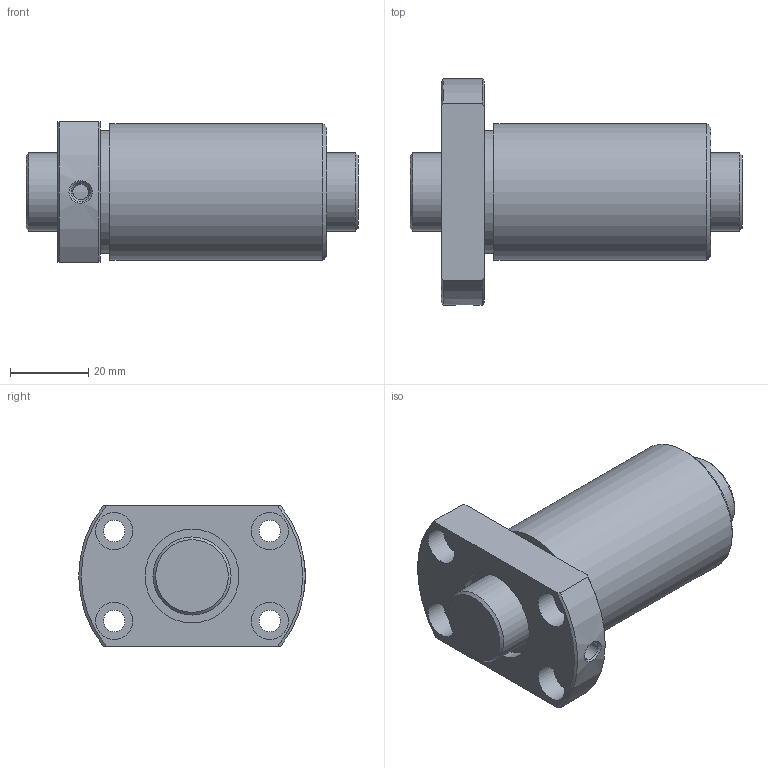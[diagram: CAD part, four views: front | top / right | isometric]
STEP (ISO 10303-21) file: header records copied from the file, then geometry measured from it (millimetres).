
FILE_DESCRIPTION(/* description */ ('STEP AP203'),/* implementation_level */ '2;1');
FILE_NAME(/* name */ 'DIK2008-4RRG0+85LC0_000',/* time_stamp */ '2025-01-07T08:42:14+01:00',/* author */ ('License CC BY-ND 4.0'),/* organization */ ('CADENAS'),/* preprocessor_version */ 'ST-DEVELOPER v19.3',/* originating_system */ 'PARTsolutions',/* authorisation */ ' ');
FILE_SCHEMA (('CONFIG_CONTROL_DESIGN'));
Length unit declared in the file: millimetre
Products named in the file (3): DIK2008-4RRG0+85LC0_000; DIK 2008-4RR08500 Shaft; DIK 2008-4RR Nut
Assembly tree (2 placements, depth 2):
  DIK2008-4RRG0+85LC0_000
    DIK 2008-4RR08500 Shaft
    DIK 2008-4RR Nut
Bounding box: 85 x 58 x 36 mm (x, y, z)
Volume: 78519.6 mm3; surface area: 23104.9 mm2
Topology: 2 solids, 2 shells, 41 faces, 83 edges, 54 vertices
Faces by surface type: cylinder 18, plane 14, cone 9
Full cylindrical faces by diameter (mm): 4 x1, 4.917 x1, 5.5 x4, 9.5 x4, 20 x2, 24 x2, 31.5 x1, 35 x1
Entity records: 1087 total; most frequent: CARTESIAN_POINT 200, DIRECTION 180, ORIENTED_EDGE 120, AXIS2_PLACEMENT_3D 86, EDGE_LOOP 82, FACE_BOUND 82, EDGE_CURVE 60, VERTEX_POINT 52
